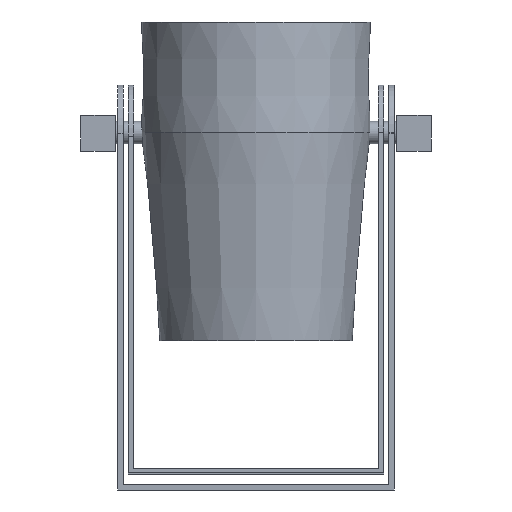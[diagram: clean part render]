
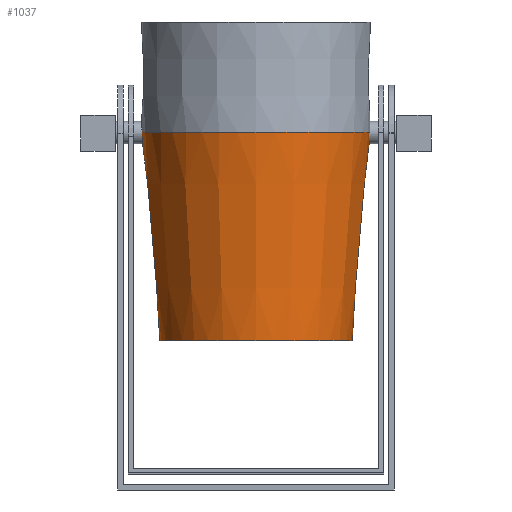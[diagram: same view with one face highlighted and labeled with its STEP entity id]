
A CAD part, front view. The second image highlights one B-rep face of the part: STEP entity #1037.
In plain terms, the highlighted conical face has half-angle 5.01 degrees and reference radius 40.04 mm.
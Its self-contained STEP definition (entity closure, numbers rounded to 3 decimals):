
#69=CONICAL_SURFACE('',#1161,40.04,0.087);
#115=FACE_OUTER_BOUND('',#175,.T.);
#175=EDGE_LOOP('',(#738,#739,#740,#741,#742,#743,#744));
#248=CIRCLE('',#1162,36.573);
#249=CIRCLE('',#1163,43.507);
#250=CIRCLE('',#1164,43.507);
#278=LINE('',#1634,#382);
#382=VECTOR('',#1276,40.04);
#486=B_SPLINE_CURVE_WITH_KNOTS('',3,(#1599,#1600,#1601,#1602),
 .UNSPECIFIED.,.F.,.F.,(4,4),(1.278,1.287),
 .UNSPECIFIED.);
#487=B_SPLINE_CURVE_WITH_KNOTS('',3,(#1606,#1607,#1608,#1609,#1610,#1611,
#1612,#1613,#1614,#1615,#1616,#1617,#1618,#1619,#1620,#1621,#1622,#1623,
#1624,#1625,#1626,#1627,#1628),.UNSPECIFIED.,.F.,.F.,(4,3,2,2,2,2,2,2,2,
2,4),(-0.013,0.,0.159,0.319,0.478,
0.637,0.796,0.956,1.115,
1.274,1.278),.UNSPECIFIED.);
#491=VERTEX_POINT('',#1578);
#492=VERTEX_POINT('',#1579);
#493=VERTEX_POINT('',#1598);
#495=VERTEX_POINT('',#1631);
#496=VERTEX_POINT('',#1633);
#588=EDGE_CURVE('',#493,#491,#486,.T.);
#591=EDGE_CURVE('',#492,#493,#487,.T.);
#592=EDGE_CURVE('',#495,#495,#248,.T.);
#593=EDGE_CURVE('',#495,#496,#278,.T.);
#594=EDGE_CURVE('',#496,#492,#249,.T.);
#595=EDGE_CURVE('',#491,#496,#250,.T.);
#738=ORIENTED_EDGE('',*,*,#592,.F.);
#739=ORIENTED_EDGE('',*,*,#593,.T.);
#740=ORIENTED_EDGE('',*,*,#594,.T.);
#741=ORIENTED_EDGE('',*,*,#591,.T.);
#742=ORIENTED_EDGE('',*,*,#588,.T.);
#743=ORIENTED_EDGE('',*,*,#595,.T.);
#744=ORIENTED_EDGE('',*,*,#593,.F.);
#1037=ADVANCED_FACE('',(#115),#69,.T.);
#1161=AXIS2_PLACEMENT_3D('',#1630,#1272,#1273);
#1162=AXIS2_PLACEMENT_3D('',#1632,#1274,#1275);
#1163=AXIS2_PLACEMENT_3D('',#1635,#1277,#1278);
#1164=AXIS2_PLACEMENT_3D('',#1636,#1279,#1280);
#1272=DIRECTION('center_axis',(0.,0.,1.));
#1273=DIRECTION('ref_axis',(0.,1.,0.));
#1274=DIRECTION('center_axis',(0.,0.,-1.));
#1275=DIRECTION('ref_axis',(1.,0.,0.));
#1276=DIRECTION('',(0.,-0.088,0.996));
#1277=DIRECTION('center_axis',(0.,0.,-1.));
#1278=DIRECTION('ref_axis',(1.,0.,0.));
#1279=DIRECTION('center_axis',(0.,0.,-1.));
#1280=DIRECTION('ref_axis',(1.,0.,0.));
#1578=CARTESIAN_POINT('',(-43.302,4.249,-4.907));
#1579=CARTESIAN_POINT('',(-43.296,-4.249,-4.909));
#1598=CARTESIAN_POINT('',(-43.294,4.25,-5.));
#1599=CARTESIAN_POINT('Ctrl Pts',(-43.294,4.25,-5.));
#1600=CARTESIAN_POINT('Ctrl Pts',(-43.296,4.25,-4.969));
#1601=CARTESIAN_POINT('Ctrl Pts',(-43.299,4.25,-4.938));
#1602=CARTESIAN_POINT('Ctrl Pts',(-43.302,4.249,-4.907));
#1606=CARTESIAN_POINT('Ctrl Pts',(-43.296,-4.249,-4.909));
#1607=CARTESIAN_POINT('Ctrl Pts',(-43.292,-4.25,-4.952));
#1608=CARTESIAN_POINT('Ctrl Pts',(-43.288,-4.25,-4.995));
#1609=CARTESIAN_POINT('Ctrl Pts',(-43.284,-4.25,-5.038));
#1610=CARTESIAN_POINT('Ctrl Pts',(-43.238,-4.245,-5.567));
#1611=CARTESIAN_POINT('Ctrl Pts',(-43.2,-4.135,-6.132));
#1612=CARTESIAN_POINT('Ctrl Pts',(-43.148,-3.697,-7.171));
#1613=CARTESIAN_POINT('Ctrl Pts',(-43.135,-3.369,-7.645));
#1614=CARTESIAN_POINT('Ctrl Pts',(-43.122,-2.615,-8.392));
#1615=CARTESIAN_POINT('Ctrl Pts',(-43.122,-2.138,-8.716));
#1616=CARTESIAN_POINT('Ctrl Pts',(-43.124,-1.095,-9.145));
#1617=CARTESIAN_POINT('Ctrl Pts',(-43.126,-0.529,
-9.25));
#1618=CARTESIAN_POINT('Ctrl Pts',(-43.127,0.532,-9.25));
#1619=CARTESIAN_POINT('Ctrl Pts',(-43.125,1.098,-9.144));
#1620=CARTESIAN_POINT('Ctrl Pts',(-43.125,2.141,-8.714));
#1621=CARTESIAN_POINT('Ctrl Pts',(-43.126,2.617,-8.39));
#1622=CARTESIAN_POINT('Ctrl Pts',(-43.14,3.371,-7.642));
#1623=CARTESIAN_POINT('Ctrl Pts',(-43.154,3.699,-7.168));
#1624=CARTESIAN_POINT('Ctrl Pts',(-43.206,4.136,-6.129));
#1625=CARTESIAN_POINT('Ctrl Pts',(-43.244,4.246,-5.564));
#1626=CARTESIAN_POINT('Ctrl Pts',(-43.292,4.25,-5.023));
#1627=CARTESIAN_POINT('Ctrl Pts',(-43.293,4.25,-5.012));
#1628=CARTESIAN_POINT('Ctrl Pts',(-43.294,4.25,-5.));
#1630=CARTESIAN_POINT('Origin',(0.,0.042,-44.459));
#1631=CARTESIAN_POINT('',(0.,-36.519,-84.021));
#1632=CARTESIAN_POINT('Origin',(0.,0.054,-84.011));
#1633=CARTESIAN_POINT('',(0.,-43.476,-4.921));
#1634=CARTESIAN_POINT('',(0.,-39.998,-44.471));
#1635=CARTESIAN_POINT('Origin',(0.,0.031,-4.908));
#1636=CARTESIAN_POINT('Origin',(0.,0.031,-4.908));
